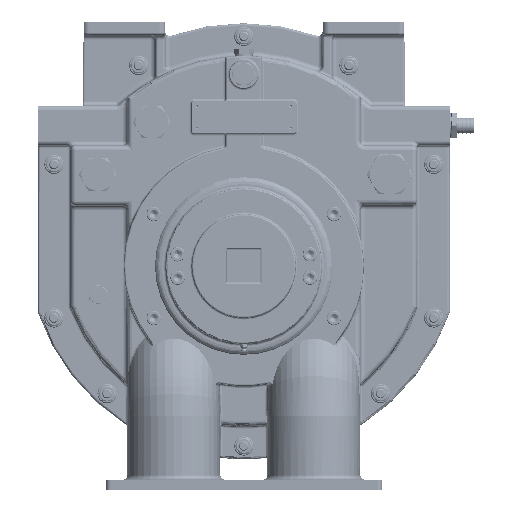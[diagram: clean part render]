
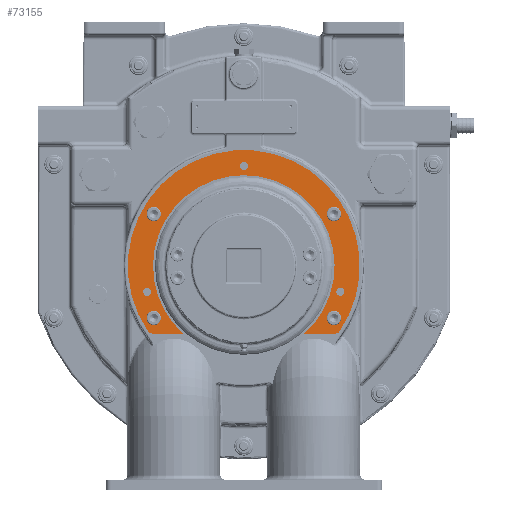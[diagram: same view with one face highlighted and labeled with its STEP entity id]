
A CAD part, front view. The second image highlights one B-rep face of the part: STEP entity #73155.
In plain terms, the highlighted planar face has unit normal (0, -1, 0) as drawn and (-1, 0, 0) by its records, which use the part's own axes.
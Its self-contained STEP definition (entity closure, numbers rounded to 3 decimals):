
#5295=FACE_BOUND('',#19175,.T.);
#5296=FACE_BOUND('',#19176,.T.);
#5297=FACE_BOUND('',#19177,.T.);
#5298=FACE_BOUND('',#19178,.T.);
#5299=FACE_BOUND('',#19179,.T.);
#5300=FACE_BOUND('',#19180,.T.);
#5301=FACE_BOUND('',#19181,.T.);
#7945=CIRCLE('',#79401,9.);
#7950=CIRCLE('',#79416,9.);
#7955=CIRCLE('',#79431,9.);
#7960=CIRCLE('',#79446,9.);
#8070=CIRCLE('',#79668,6.);
#8076=CIRCLE('',#79676,6.);
#8080=CIRCLE('',#79682,5.053);
#8082=CIRCLE('',#79685,5.053);
#8084=CIRCLE('',#79688,5.053);
#8086=CIRCLE('',#79691,113.5);
#8087=CIRCLE('',#79692,20.);
#8088=CIRCLE('',#79693,145.);
#8089=CIRCLE('',#79694,20.);
#11121=PLANE('',#79690);
#14555=FACE_OUTER_BOUND('',#19174,.T.);
#19174=EDGE_LOOP('',(#63106,#63107,#63108,#63109,#63110,#63111,#63112,#63113));
#19175=EDGE_LOOP('',(#63114));
#19176=EDGE_LOOP('',(#63115));
#19177=EDGE_LOOP('',(#63116));
#19178=EDGE_LOOP('',(#63117));
#19179=EDGE_LOOP('',(#63118));
#19180=EDGE_LOOP('',(#63119));
#19181=EDGE_LOOP('',(#63120));
#23541=LINE('',#264375,#27605);
#23551=LINE('',#264436,#27615);
#27605=VECTOR('',#94311,10.);
#27615=VECTOR('',#94379,10.);
#35421=VERTEX_POINT('',#263527);
#35439=VERTEX_POINT('',#263595);
#35457=VERTEX_POINT('',#263663);
#35475=VERTEX_POINT('',#263731);
#35643=VERTEX_POINT('',#264372);
#35644=VERTEX_POINT('',#264374);
#35646=VERTEX_POINT('',#264380);
#35653=VERTEX_POINT('',#264398);
#35654=VERTEX_POINT('',#264400);
#35658=VERTEX_POINT('',#264411);
#35660=VERTEX_POINT('',#264417);
#35662=VERTEX_POINT('',#264423);
#35664=VERTEX_POINT('',#264430);
#35665=VERTEX_POINT('',#264432);
#35666=VERTEX_POINT('',#264434);
#44673=EDGE_CURVE('',#35421,#35421,#7945,.T.);
#44699=EDGE_CURVE('',#35439,#35439,#7950,.T.);
#44725=EDGE_CURVE('',#35457,#35457,#7955,.T.);
#44751=EDGE_CURVE('',#35475,#35475,#7960,.T.);
#45010=EDGE_CURVE('',#35644,#35643,#23541,.T.);
#45013=EDGE_CURVE('',#35646,#35644,#8070,.T.);
#45023=EDGE_CURVE('',#35654,#35653,#8076,.T.);
#45028=EDGE_CURVE('',#35658,#35658,#8080,.T.);
#45031=EDGE_CURVE('',#35660,#35660,#8082,.T.);
#45034=EDGE_CURVE('',#35662,#35662,#8084,.T.);
#45037=EDGE_CURVE('',#35653,#35646,#8086,.T.);
#45038=EDGE_CURVE('',#35643,#35664,#8087,.T.);
#45039=EDGE_CURVE('',#35664,#35665,#8088,.T.);
#45040=EDGE_CURVE('',#35665,#35666,#8089,.T.);
#45041=EDGE_CURVE('',#35666,#35654,#23551,.T.);
#63106=ORIENTED_EDGE('',*,*,#45023,.T.);
#63107=ORIENTED_EDGE('',*,*,#45037,.T.);
#63108=ORIENTED_EDGE('',*,*,#45013,.T.);
#63109=ORIENTED_EDGE('',*,*,#45010,.T.);
#63110=ORIENTED_EDGE('',*,*,#45038,.T.);
#63111=ORIENTED_EDGE('',*,*,#45039,.T.);
#63112=ORIENTED_EDGE('',*,*,#45040,.T.);
#63113=ORIENTED_EDGE('',*,*,#45041,.T.);
#63114=ORIENTED_EDGE('',*,*,#44673,.F.);
#63115=ORIENTED_EDGE('',*,*,#44699,.F.);
#63116=ORIENTED_EDGE('',*,*,#44725,.F.);
#63117=ORIENTED_EDGE('',*,*,#44751,.F.);
#63118=ORIENTED_EDGE('',*,*,#45028,.F.);
#63119=ORIENTED_EDGE('',*,*,#45031,.F.);
#63120=ORIENTED_EDGE('',*,*,#45034,.F.);
#73155=ADVANCED_FACE('',(#14555,#5295,#5296,#5297,#5298,#5299,#5300,#5301),
#11121,.T.);
#79401=AXIS2_PLACEMENT_3D('',#263528,#93626,#93627);
#79416=AXIS2_PLACEMENT_3D('',#263596,#93670,#93671);
#79431=AXIS2_PLACEMENT_3D('',#263664,#93714,#93715);
#79446=AXIS2_PLACEMENT_3D('',#263732,#93758,#93759);
#79668=AXIS2_PLACEMENT_3D('',#264381,#94317,#94318);
#79676=AXIS2_PLACEMENT_3D('',#264401,#94337,#94338);
#79682=AXIS2_PLACEMENT_3D('',#264412,#94350,#94351);
#79685=AXIS2_PLACEMENT_3D('',#264418,#94357,#94358);
#79688=AXIS2_PLACEMENT_3D('',#264424,#94364,#94365);
#79690=AXIS2_PLACEMENT_3D('',#264428,#94369,#94370);
#79691=AXIS2_PLACEMENT_3D('',#264429,#94371,#94372);
#79692=AXIS2_PLACEMENT_3D('',#264431,#94373,#94374);
#79693=AXIS2_PLACEMENT_3D('',#264433,#94375,#94376);
#79694=AXIS2_PLACEMENT_3D('',#264435,#94377,#94378);
#93626=DIRECTION('center_axis',(-1.,0.,0.));
#93627=DIRECTION('ref_axis',(0.,1.,0.));
#93670=DIRECTION('center_axis',(-1.,0.,0.));
#93671=DIRECTION('ref_axis',(0.,1.,0.));
#93714=DIRECTION('center_axis',(-1.,0.,0.));
#93715=DIRECTION('ref_axis',(0.,1.,0.));
#93758=DIRECTION('center_axis',(-1.,0.,0.));
#93759=DIRECTION('ref_axis',(0.,1.,0.));
#94311=DIRECTION('',(0.,-1.,0.));
#94317=DIRECTION('center_axis',(1.,0.,0.));
#94318=DIRECTION('ref_axis',(0.,0.341,0.94));
#94337=DIRECTION('center_axis',(1.,0.,0.));
#94338=DIRECTION('ref_axis',(0.,-0.341,0.94));
#94350=DIRECTION('center_axis',(-1.,0.,0.));
#94351=DIRECTION('ref_axis',(0.,-1.,0.));
#94357=DIRECTION('center_axis',(-1.,0.,0.));
#94358=DIRECTION('ref_axis',(0.,-1.,0.));
#94364=DIRECTION('center_axis',(-1.,0.,0.));
#94365=DIRECTION('ref_axis',(0.,-1.,0.));
#94369=DIRECTION('center_axis',(-1.,0.,0.));
#94370=DIRECTION('ref_axis',(0.,1.,0.));
#94371=DIRECTION('center_axis',(1.,0.,0.));
#94372=DIRECTION('ref_axis',(0.,1.,0.));
#94373=DIRECTION('center_axis',(-1.,0.,0.));
#94374=DIRECTION('ref_axis',(0.,-0.496,-0.868));
#94375=DIRECTION('center_axis',(-1.,0.,0.));
#94376=DIRECTION('ref_axis',(0.,-1.,0.));
#94377=DIRECTION('center_axis',(-1.,0.,0.));
#94378=DIRECTION('ref_axis',(0.,0.496,-0.868));
#94379=DIRECTION('',(0.,-1.,0.));
#263527=CARTESIAN_POINT('',(-264.5,-121.583,34.));
#263528=CARTESIAN_POINT('Origin',(-264.5,-112.583,34.));
#263595=CARTESIAN_POINT('',(-264.5,-121.583,-96.));
#263596=CARTESIAN_POINT('Origin',(-264.5,-112.583,-96.));
#263663=CARTESIAN_POINT('',(-264.5,103.583,-96.));
#263664=CARTESIAN_POINT('Origin',(-264.5,112.583,-96.));
#263731=CARTESIAN_POINT('',(-264.5,103.583,34.));
#263732=CARTESIAN_POINT('Origin',(-264.5,112.583,34.));
#264372=CARTESIAN_POINT('',(-264.5,-110.268,-116.));
#264374=CARTESIAN_POINT('',(-264.5,-75.903,-116.));
#264375=CARTESIAN_POINT('',(-264.5,-36.849,-116.));
#264380=CARTESIAN_POINT('',(-264.5,-75.163,-116.046));
#264381=CARTESIAN_POINT('Origin',(-264.5,-75.903,-122.));
#264398=CARTESIAN_POINT('',(-264.5,75.163,-116.046));
#264400=CARTESIAN_POINT('',(-264.5,75.903,-116.));
#264401=CARTESIAN_POINT('Origin',(-264.5,75.903,-122.));
#264411=CARTESIAN_POINT('',(-264.5,5.053,94.));
#264412=CARTESIAN_POINT('Origin',(-264.5,0.,
94.));
#264417=CARTESIAN_POINT('',(-264.5,125.794,-63.352));
#264418=CARTESIAN_POINT('Origin',(-264.5,120.741,-63.352));
#264423=CARTESIAN_POINT('',(-264.5,-115.688,-63.352));
#264424=CARTESIAN_POINT('Origin',(-264.5,-120.741,-63.352));
#264428=CARTESIAN_POINT('Origin',(-264.5,0.,
-31.));
#264429=CARTESIAN_POINT('Origin',(-264.5,0.,
-31.));
#264430=CARTESIAN_POINT('',(-264.5,-118.849,-114.065));
#264431=CARTESIAN_POINT('Origin',(-264.5,-110.268,-96.));
#264432=CARTESIAN_POINT('',(-264.5,118.849,-114.065));
#264433=CARTESIAN_POINT('Origin',(-264.5,0.,
-31.));
#264434=CARTESIAN_POINT('',(-264.5,110.268,-116.));
#264435=CARTESIAN_POINT('Origin',(-264.5,110.268,-96.));
#264436=CARTESIAN_POINT('',(-264.5,60.578,-116.));
